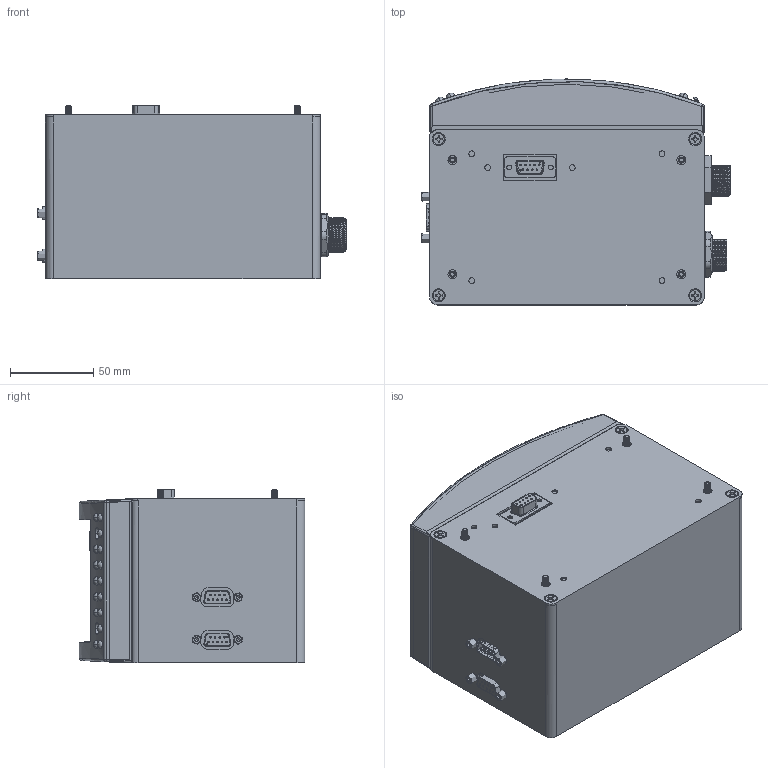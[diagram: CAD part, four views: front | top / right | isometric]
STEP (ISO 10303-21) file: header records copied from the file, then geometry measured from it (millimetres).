
FILE_DESCRIPTION (( 'STEP AP214' ), '1' );
FILE_NAME ('ASG-NW2500-1.STEP', '2026-05-18T15:53:14', ( '' ), ( '' ), 'SwSTEP 2.0', 'SolidWorks 2024', '' );
FILE_SCHEMA (( 'AUTOMOTIVE_DESIGN' ));
Length unit declared in the file: inch
Products named in the file (1): ASG-NW2500-1
Bounding box: 185.51 x 135.64 x 104.34 mm (x, y, z)
Surface area: 194552.4 mm2 (no closed solid volume)
Topology: 0 solids, 238 shells, 3469 faces, 10241 edges, 7133 vertices
Faces by surface type: plane 1905, cylinder 797, bspline 439, cone 232, torus 76, sphere 20
Entity records: 271115 total; most frequent: CARTESIAN_POINT 140731, ORIENTED_EDGE 19248, DIRECTION 14507, EDGE_CURVE 10211, VERTEX_POINT 7142, VECTOR 5851, LINE 5851, AXIS2_PLACEMENT_3D 4328
